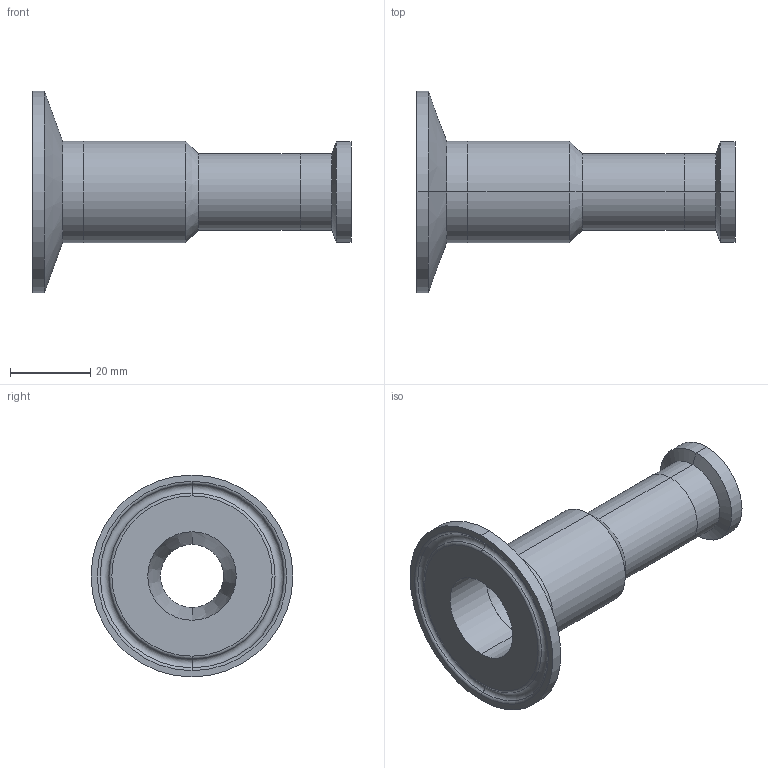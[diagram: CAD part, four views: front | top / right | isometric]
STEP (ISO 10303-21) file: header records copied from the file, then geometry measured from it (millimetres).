
FILE_DESCRIPTION (( 'STEP AP214' ), '1' );
FILE_NAME ('TEG31SCC6L1.0X.75.STEP', '2025-08-06T14:59:39', ( '' ), ( '' ), 'SwSTEP 2.0', 'SolidWorks 2021', '' );
FILE_SCHEMA (( 'AUTOMOTIVE_DESIGN' ));
Length unit declared in the file: inch
Products named in the file (1): TEG31SCC6L1.0X.75
Bounding box: 79.38 x 50.39 x 50.39 mm (x, y, z)
Volume: 17988.5 mm3; surface area: 14421.2 mm2
Topology: 3 solids, 3 shells, 48 faces, 96 edges, 56 vertices
Faces by surface type: cylinder 22, cone 10, plane 8, torus 8
Entity records: 1950 total; most frequent: DIRECTION 258, CARTESIAN_POINT 201, ORIENTED_EDGE 192, AXIS2_PLACEMENT_3D 113, EDGE_CURVE 96, CIRCLE 64, EDGE_LOOP 56, VERTEX_POINT 56
